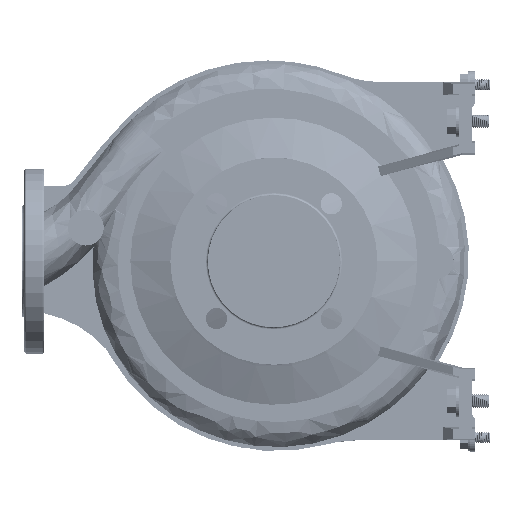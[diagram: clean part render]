
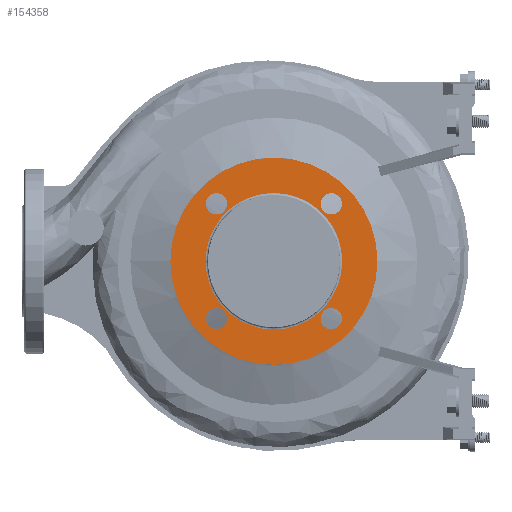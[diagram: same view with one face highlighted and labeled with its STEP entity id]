
A CAD part, left-side view. The second image highlights one B-rep face of the part: STEP entity #154358.
In plain terms, the highlighted planar face has unit normal (-1, 0, 0).
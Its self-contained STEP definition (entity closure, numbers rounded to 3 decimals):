
#291 = DIRECTION ( 'NONE',  ( -1., 0., 0. ) ) ;
#437 = ORIENTED_EDGE ( 'NONE', *, *, #163880, .F. ) ;
#1864 = EDGE_CURVE ( 'NONE', #212461, #206105, #187302, .T. ) ;
#3254 = DIRECTION ( 'NONE',  ( 1., 0., 0. ) ) ;
#3314 = EDGE_LOOP ( 'NONE', ( #132288, #31345 ) ) ;
#4143 = DIRECTION ( 'NONE',  ( 0., 1., 0. ) ) ;
#5299 = EDGE_CURVE ( 'NONE', #194362, #200130, #31547, .T. ) ;
#5597 = CIRCLE ( 'NONE', #180931, 9.5 ) ;
#9646 = CARTESIAN_POINT ( 'NONE',  ( -98., 51.265, -51.265 ) ) ;
#11991 = AXIS2_PLACEMENT_3D ( 'NONE', #150712, #3254, #118406 ) ;
#13771 = CIRCLE ( 'NONE', #99633, 9.5 ) ;
#14300 = DIRECTION ( 'NONE',  ( 0., 0., -1. ) ) ;
#15401 = AXIS2_PLACEMENT_3D ( 'NONE', #122091, #172671, #203895 ) ;
#19005 = VERTEX_POINT ( 'NONE', #189708 ) ;
#19327 = ORIENTED_EDGE ( 'NONE', *, *, #5299, .F. ) ;
#19587 = DIRECTION ( 'NONE',  ( -1., 0., 0. ) ) ;
#20232 = EDGE_CURVE ( 'NONE', #73584, #88822, #181826, .T. ) ;
#22596 = DIRECTION ( 'NONE',  ( 0., 0., 1. ) ) ;
#23308 = CARTESIAN_POINT ( 'NONE',  ( -98., 41.765, 51.265 ) ) ;
#24992 = DIRECTION ( 'NONE',  ( -1., 0., 0. ) ) ;
#28235 = CARTESIAN_POINT ( 'NONE',  ( -98., -51.265, 51.265 ) ) ;
#29218 = CARTESIAN_POINT ( 'NONE',  ( -98., 60.765, 51.265 ) ) ;
#30294 = DIRECTION ( 'NONE',  ( 1., 0., 0. ) ) ;
#31345 = ORIENTED_EDGE ( 'NONE', *, *, #41401, .F. ) ;
#31547 = CIRCLE ( 'NONE', #52152, 9.5 ) ;
#35615 = CARTESIAN_POINT ( 'NONE',  ( -98., -61., 0. ) ) ;
#41289 = CIRCLE ( 'NONE', #189093, 92.5 ) ;
#41401 = EDGE_CURVE ( 'NONE', #147925, #196373, #107272, .T. ) ;
#49655 = CARTESIAN_POINT ( 'NONE',  ( -98., 0., 0. ) ) ;
#51861 = AXIS2_PLACEMENT_3D ( 'NONE', #28235, #211132, #129353 ) ;
#52077 = PLANE ( 'NONE',  #174027 ) ;
#52152 = AXIS2_PLACEMENT_3D ( 'NONE', #180530, #88908, #102943 ) ;
#52744 = VERTEX_POINT ( 'NONE', #124600 ) ;
#53120 = FACE_BOUND ( 'NONE', #119328, .T. ) ;
#60574 = AXIS2_PLACEMENT_3D ( 'NONE', #212297, #291, #115441 ) ;
#63098 = CARTESIAN_POINT ( 'NONE',  ( -98., 51.265, -41.765 ) ) ;
#67496 = CIRCLE ( 'NONE', #60574, 9.5 ) ;
#67533 = CARTESIAN_POINT ( 'NONE',  ( -98., -92.5, 0. ) ) ;
#68014 = EDGE_CURVE ( 'NONE', #80933, #52744, #67496, .T. ) ;
#68455 = CARTESIAN_POINT ( 'NONE',  ( -98., 92.5, 0. ) ) ;
#72858 = AXIS2_PLACEMENT_3D ( 'NONE', #49655, #30294, #115248 ) ;
#73584 = VERTEX_POINT ( 'NONE', #134508 ) ;
#80933 = VERTEX_POINT ( 'NONE', #122988 ) ;
#82817 = DIRECTION ( 'NONE',  ( 0., 1., 0. ) ) ;
#85959 = CARTESIAN_POINT ( 'NONE',  ( -98., 0., 0. ) ) ;
#86304 = EDGE_CURVE ( 'NONE', #88822, #73584, #87541, .T. ) ;
#86432 = EDGE_CURVE ( 'NONE', #206105, #212461, #135942, .T. ) ;
#87541 = CIRCLE ( 'NONE', #11991, 61. ) ;
#88822 = VERTEX_POINT ( 'NONE', #35615 ) ;
#88908 = DIRECTION ( 'NONE',  ( -1., 0., 0. ) ) ;
#92387 = ORIENTED_EDGE ( 'NONE', *, *, #156882, .F. ) ;
#99633 = AXIS2_PLACEMENT_3D ( 'NONE', #172415, #24992, #140106 ) ;
#102530 = CARTESIAN_POINT ( 'NONE',  ( -98., -51.265, 60.765 ) ) ;
#102943 = DIRECTION ( 'NONE',  ( 0., -1., 0. ) ) ;
#106351 = EDGE_LOOP ( 'NONE', ( #199912, #157945 ) ) ;
#107272 = CIRCLE ( 'NONE', #72858, 92.5 ) ;
#110791 = EDGE_LOOP ( 'NONE', ( #196333, #437 ) ) ;
#115248 = DIRECTION ( 'NONE',  ( 0., 1., 0. ) ) ;
#115441 = DIRECTION ( 'NONE',  ( 0., 1., 0. ) ) ;
#116530 = EDGE_CURVE ( 'NONE', #196373, #147925, #41289, .T. ) ;
#116612 = FACE_BOUND ( 'NONE', #161430, .T. ) ;
#117666 = CARTESIAN_POINT ( 'NONE',  ( -98., 61., 0. ) ) ;
#118406 = DIRECTION ( 'NONE',  ( 0., 1., 0. ) ) ;
#119328 = EDGE_LOOP ( 'NONE', ( #154928, #206478 ) ) ;
#120633 = CIRCLE ( 'NONE', #51861, 9.5 ) ;
#122091 = CARTESIAN_POINT ( 'NONE',  ( -98., 51.265, -51.265 ) ) ;
#122988 = CARTESIAN_POINT ( 'NONE',  ( -98., -60.765, -51.265 ) ) ;
#124600 = CARTESIAN_POINT ( 'NONE',  ( -98., -41.765, -51.265 ) ) ;
#124784 = DIRECTION ( 'NONE',  ( -1., 0., 0. ) ) ;
#129353 = DIRECTION ( 'NONE',  ( 0., 0., -1. ) ) ;
#132288 = ORIENTED_EDGE ( 'NONE', *, *, #116530, .F. ) ;
#132758 = FACE_BOUND ( 'NONE', #106351, .T. ) ;
#134508 = CARTESIAN_POINT ( 'NONE',  ( -98., 61., 0. ) ) ;
#135942 = CIRCLE ( 'NONE', #156534, 9.5 ) ;
#136482 = DIRECTION ( 'NONE',  ( 1., 0., 0. ) ) ;
#136654 = AXIS2_PLACEMENT_3D ( 'NONE', #141327, #190838, #14300 ) ;
#136810 = CARTESIAN_POINT ( 'NONE',  ( -98., 51.265, 51.265 ) ) ;
#139156 = ORIENTED_EDGE ( 'NONE', *, *, #202662, .F. ) ;
#140106 = DIRECTION ( 'NONE',  ( 0., 1., 0. ) ) ;
#141327 = CARTESIAN_POINT ( 'NONE',  ( -98., -51.265, 51.265 ) ) ;
#143669 = EDGE_LOOP ( 'NONE', ( #19327, #157602 ) ) ;
#147925 = VERTEX_POINT ( 'NONE', #67533 ) ;
#150363 = CIRCLE ( 'NONE', #136654, 9.5 ) ;
#150712 = CARTESIAN_POINT ( 'NONE',  ( -98., 0., 0. ) ) ;
#152940 = VERTEX_POINT ( 'NONE', #102530 ) ;
#153688 = CARTESIAN_POINT ( 'NONE',  ( -98., 0., 0. ) ) ;
#154358 = ADVANCED_FACE ( 'NONE', ( #132758, #198417, #116612, #182284, #53120, #199482 ), #52077, .T. ) ;
#154928 = ORIENTED_EDGE ( 'NONE', *, *, #20232, .T. ) ;
#156534 = AXIS2_PLACEMENT_3D ( 'NONE', #9646, #124784, #22596 ) ;
#156882 = EDGE_CURVE ( 'NONE', #19005, #152940, #150363, .T. ) ;
#157602 = ORIENTED_EDGE ( 'NONE', *, *, #191604, .F. ) ;
#157945 = ORIENTED_EDGE ( 'NONE', *, *, #1864, .F. ) ;
#161394 = CARTESIAN_POINT ( 'NONE',  ( -98., 51.265, -60.765 ) ) ;
#161430 = EDGE_LOOP ( 'NONE', ( #139156, #92387 ) ) ;
#163880 = EDGE_CURVE ( 'NONE', #52744, #80933, #13771, .T. ) ;
#167187 = DIRECTION ( 'NONE',  ( 0., -1., 0. ) ) ;
#172415 = CARTESIAN_POINT ( 'NONE',  ( -98., -51.265, -51.265 ) ) ;
#172671 = DIRECTION ( 'NONE',  ( -1., 0., 0. ) ) ;
#174027 = AXIS2_PLACEMENT_3D ( 'NONE', #117666, #184386, #167187 ) ;
#180530 = CARTESIAN_POINT ( 'NONE',  ( -98., 51.265, 51.265 ) ) ;
#180931 = AXIS2_PLACEMENT_3D ( 'NONE', #136810, #19587, #199313 ) ;
#181826 = CIRCLE ( 'NONE', #188740, 61. ) ;
#182284 = FACE_BOUND ( 'NONE', #143669, .T. ) ;
#183937 = DIRECTION ( 'NONE',  ( 1., 0., 0. ) ) ;
#184386 = DIRECTION ( 'NONE',  ( -1., 0., 0. ) ) ;
#187302 = CIRCLE ( 'NONE', #15401, 9.5 ) ;
#188740 = AXIS2_PLACEMENT_3D ( 'NONE', #85959, #183937, #82817 ) ;
#189093 = AXIS2_PLACEMENT_3D ( 'NONE', #153688, #136482, #4143 ) ;
#189708 = CARTESIAN_POINT ( 'NONE',  ( -98., -51.265, 41.765 ) ) ;
#190838 = DIRECTION ( 'NONE',  ( -1., 0., 0. ) ) ;
#191604 = EDGE_CURVE ( 'NONE', #200130, #194362, #5597, .T. ) ;
#194362 = VERTEX_POINT ( 'NONE', #23308 ) ;
#196333 = ORIENTED_EDGE ( 'NONE', *, *, #68014, .F. ) ;
#196373 = VERTEX_POINT ( 'NONE', #68455 ) ;
#198417 = FACE_BOUND ( 'NONE', #110791, .T. ) ;
#199313 = DIRECTION ( 'NONE',  ( 0., -1., 0. ) ) ;
#199482 = FACE_OUTER_BOUND ( 'NONE', #3314, .T. ) ;
#199912 = ORIENTED_EDGE ( 'NONE', *, *, #86432, .F. ) ;
#200130 = VERTEX_POINT ( 'NONE', #29218 ) ;
#202662 = EDGE_CURVE ( 'NONE', #152940, #19005, #120633, .T. ) ;
#203895 = DIRECTION ( 'NONE',  ( 0., 0., 1. ) ) ;
#206105 = VERTEX_POINT ( 'NONE', #63098 ) ;
#206478 = ORIENTED_EDGE ( 'NONE', *, *, #86304, .T. ) ;
#211132 = DIRECTION ( 'NONE',  ( -1., 0., 0. ) ) ;
#212297 = CARTESIAN_POINT ( 'NONE',  ( -98., -51.265, -51.265 ) ) ;
#212461 = VERTEX_POINT ( 'NONE', #161394 ) ;
